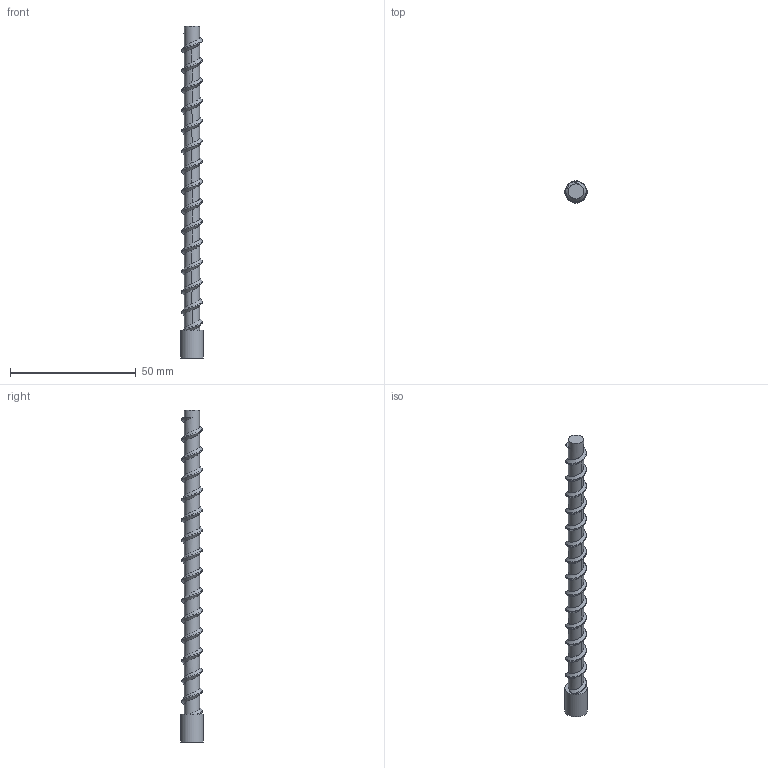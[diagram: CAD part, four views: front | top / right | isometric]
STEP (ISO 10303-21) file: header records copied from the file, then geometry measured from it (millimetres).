
FILE_DESCRIPTION(/* description */ (''),/* implementation_level */ '2;1');
FILE_NAME(/* name */ 'Lead Screw.step',/* time_stamp */ '2026-07-17T11:57:45+01:00',/* author */ (''),/* organization */ (''),/* preprocessor_version */ 'ST-DEVELOPER v20.1',/* originating_system */ 'Autodesk Translation Framework v15.8.0.0',/* authorisation */ '');
FILE_SCHEMA (('AUTOMOTIVE_DESIGN { 1 0 10303 214 3 1 1 }'));
Length unit declared in the file: millimetre
Products named in the file (2): Lead Screw; Component3
Assembly tree (1 placements, depth 2):
  Lead Screw
    Component3
Bounding box: 9 x 9 x 132 mm (x, y, z)
Volume: 4477 mm3; surface area: 3320.4 mm2
Topology: 1 solids, 1 shells, 29 faces, 79 edges, 54 vertices
Faces by surface type: cylinder 17, plane 9, bspline 3
Full cylindrical faces by diameter (mm): 5.1 x1, 6 x15, 9 x1
Entity records: 4478 total; most frequent: CARTESIAN_POINT 3769, ORIENTED_EDGE 158, DIRECTION 105, EDGE_CURVE 79, VERTEX_POINT 54, AXIS2_PLACEMENT_3D 40, B_SPLINE_CURVE_WITH_KNOTS 39, EDGE_LOOP 31
